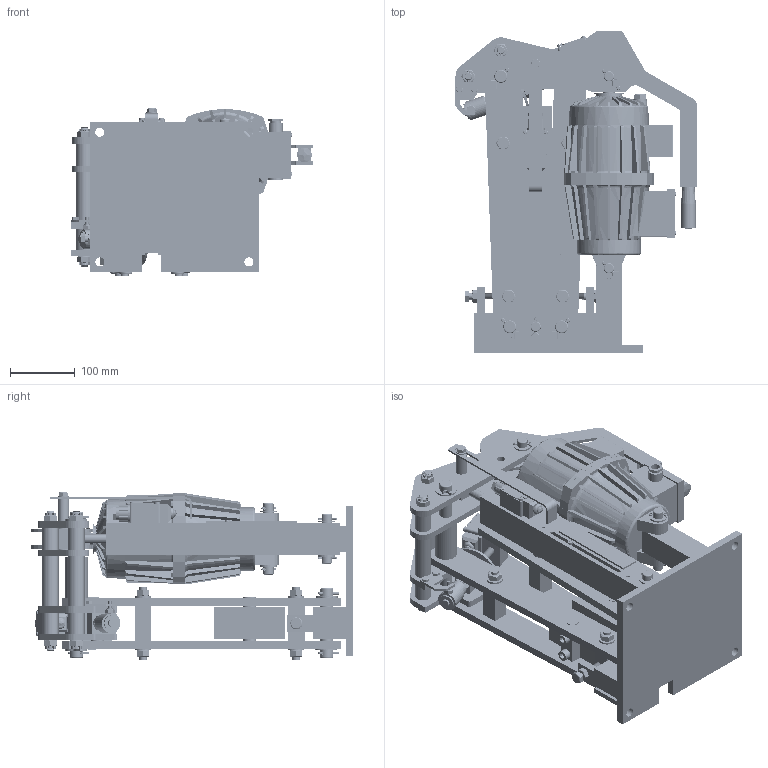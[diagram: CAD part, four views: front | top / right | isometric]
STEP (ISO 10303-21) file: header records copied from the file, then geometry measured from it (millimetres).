
FILE_DESCRIPTION((''),'2;1');
FILE_NAME('ODB0-TH1-F_O_','2019-06-03T',('BOLS'),(''),'CREO PARAMETRIC BY PTC INC, 2017020','CREO PARAMETRIC BY PTC INC, 2017020','');
FILE_SCHEMA(('CONFIG_CONTROL_DESIGN'));
Products named in the file (1): ODB0-TH1-F_O_
Bounding box: 371.67 x 497.5 x 257.59 mm (x, y, z)
Volume: 485183.5 mm3; surface area: 1398942.8 mm2
Topology: 14 solids, 448 shells, 3259 faces, 11270 edges, 7897 vertices
Faces by surface type: plane 1483, cylinder 970, cone 611, torus 179, bspline 16
Entity records: 187512 total; most frequent: CARTESIAN_POINT 59660, ORIENTED_EDGE 18883, DIRECTION 17007, PRESENTATION_STYLE_ASSIGNMENT 11706, STYLED_ITEM 11706, CURVE_STYLE 11260, EDGE_CURVE 11260, VERTEX_POINT 7895
